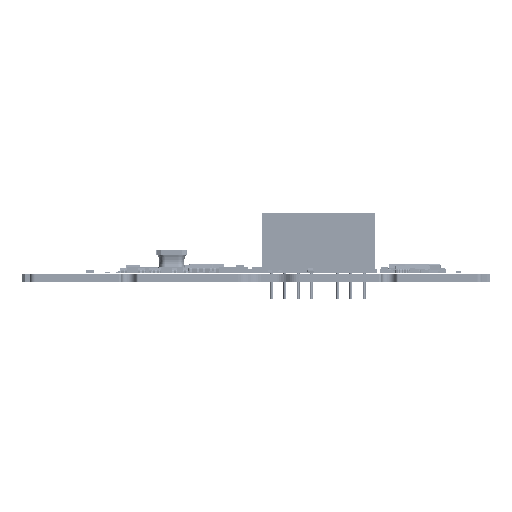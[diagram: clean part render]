
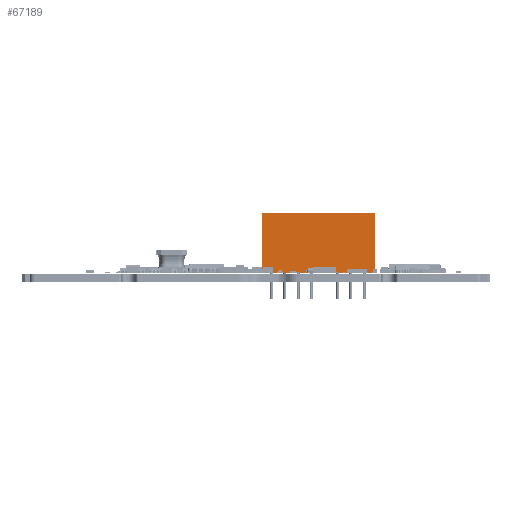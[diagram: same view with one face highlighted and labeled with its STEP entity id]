
A CAD part, front view. The second image highlights one B-rep face of the part: STEP entity #67189.
In plain terms, the highlighted planar face has unit normal (0, -1, 0) as drawn and (1, 0, 0) by its records, which use the part's own axes.
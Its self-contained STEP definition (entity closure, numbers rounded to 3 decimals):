
#67016 = VERTEX_POINT('',#67017);
#67017 = CARTESIAN_POINT('',(3.5,-19.65,0.1));
#67023 = EDGE_CURVE('',#67016,#67024,#67026,.T.);
#67024 = VERTEX_POINT('',#67025);
#67025 = CARTESIAN_POINT('',(3.5,2.15,0.1));
#67026 = LINE('',#67027,#67028);
#67027 = CARTESIAN_POINT('',(3.5,-19.65,0.1));
#67028 = VECTOR('',#67029,1.);
#67029 = DIRECTION('',(0.,1.,0.));
#67145 = EDGE_CURVE('',#67024,#67146,#67148,.T.);
#67146 = VERTEX_POINT('',#67147);
#67147 = CARTESIAN_POINT('',(3.5,2.15,11.7));
#67148 = LINE('',#67149,#67150);
#67149 = CARTESIAN_POINT('',(3.5,2.15,0.1));
#67150 = VECTOR('',#67151,1.);
#67151 = DIRECTION('',(0.,0.,1.));
#67171 = VERTEX_POINT('',#67172);
#67172 = CARTESIAN_POINT('',(3.5,-19.65,11.7));
#67178 = EDGE_CURVE('',#67016,#67171,#67179,.T.);
#67179 = LINE('',#67180,#67181);
#67180 = CARTESIAN_POINT('',(3.5,-19.65,0.1));
#67181 = VECTOR('',#67182,1.);
#67182 = DIRECTION('',(0.,0.,1.));
#67189 = ADVANCED_FACE('',(#67190),#67201,.F.);
#67190 = FACE_BOUND('',#67191,.F.);
#67191 = EDGE_LOOP('',(#67192,#67193,#67199,#67200));
#67192 = ORIENTED_EDGE('',*,*,#67178,.T.);
#67193 = ORIENTED_EDGE('',*,*,#67194,.T.);
#67194 = EDGE_CURVE('',#67171,#67146,#67195,.T.);
#67195 = LINE('',#67196,#67197);
#67196 = CARTESIAN_POINT('',(3.5,-19.65,11.7));
#67197 = VECTOR('',#67198,1.);
#67198 = DIRECTION('',(0.,1.,0.));
#67199 = ORIENTED_EDGE('',*,*,#67145,.F.);
#67200 = ORIENTED_EDGE('',*,*,#67023,.F.);
#67201 = PLANE('',#67202);
#67202 = AXIS2_PLACEMENT_3D('',#67203,#67204,#67205);
#67203 = CARTESIAN_POINT('',(3.5,-19.65,0.1));
#67204 = DIRECTION('',(-1.,0.,0.));
#67205 = DIRECTION('',(0.,1.,0.));
